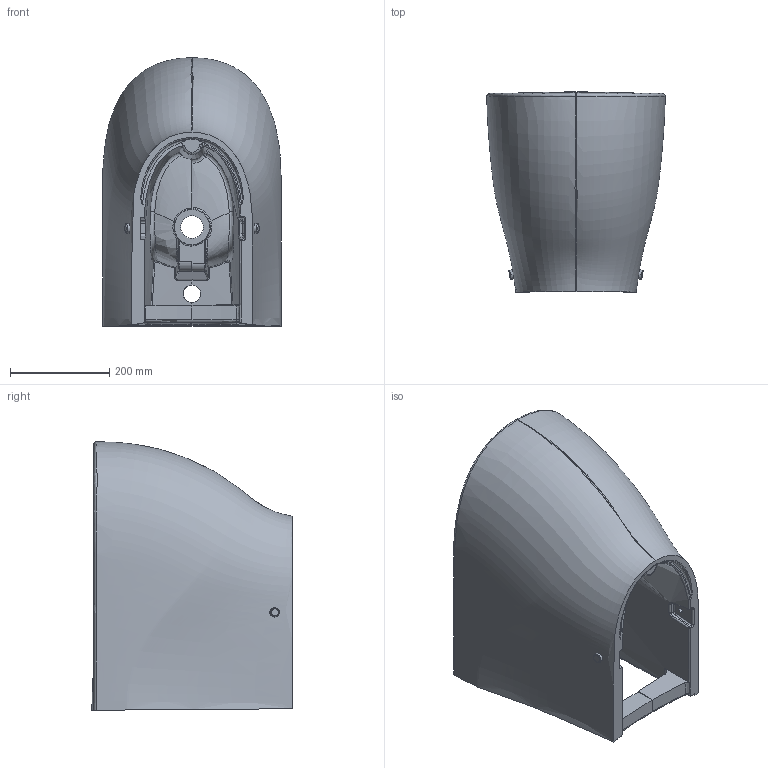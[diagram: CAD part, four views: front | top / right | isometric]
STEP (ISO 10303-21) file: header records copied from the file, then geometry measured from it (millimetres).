
FILE_DESCRIPTION (( 'STEP AP203' ), '1' );
FILE_NAME ('MA500.STEP', '2022-04-13T08:31:08', ( '' ), ( '' ), 'SwSTEP 2.0', 'SolidWorks 2021', '' );
FILE_SCHEMA (( 'CONFIG_CONTROL_DESIGN' ));
Products named in the file (1): MA500
Bounding box: 359.27 x 403.31 x 540.01 mm (x, y, z)
Volume: 28743992.5 mm3; surface area: 1200412.3 mm2
Topology: 4 solids, 4 shells, 762 faces, 1840 edges, 1071 vertices
Faces by surface type: bspline 292, cylinder 181, torus 114, plane 90, sphere 77, cone 8
Entity records: 153891 total; most frequent: CARTESIAN_POINT 138169, ORIENTED_EDGE 3622, DIRECTION 2870, EDGE_CURVE 1811, AXIS2_PLACEMENT_3D 1242, VERTEX_POINT 1065, EDGE_LOOP 782, CIRCLE 771
